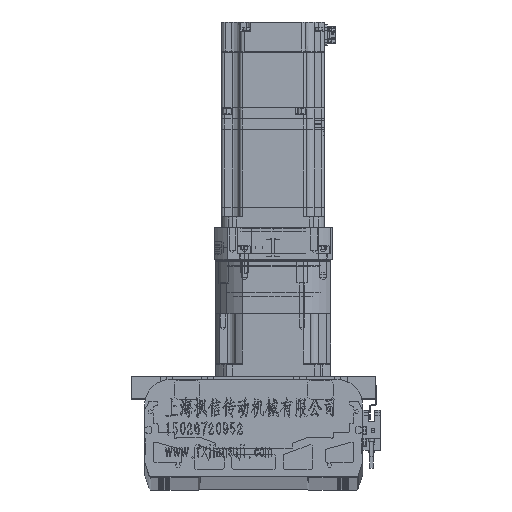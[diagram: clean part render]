
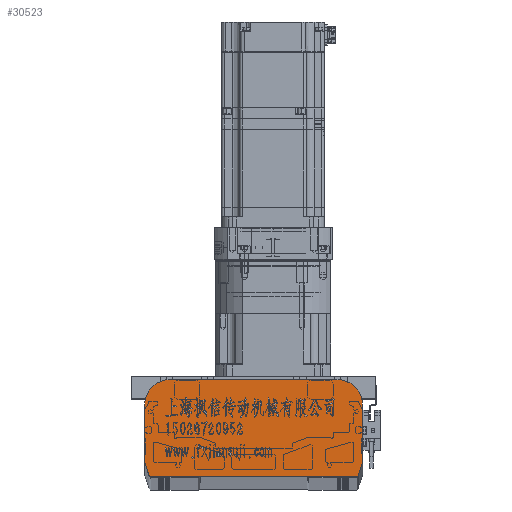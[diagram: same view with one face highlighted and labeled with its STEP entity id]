
A CAD part, top view. The second image highlights one B-rep face of the part: STEP entity #30523.
In plain terms, the highlighted planar face has unit normal (0, 0, 1).
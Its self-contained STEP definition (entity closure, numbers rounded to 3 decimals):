
#3497 = ORIENTED_EDGE ( 'NONE', *, *, #165576, .T. ) ;
#6141 = ORIENTED_EDGE ( 'NONE', *, *, #152074, .T. ) ;
#7154 = CIRCLE ( 'NONE', #154273, 20. ) ;
#8222 = PLANE ( 'NONE',  #160850 ) ;
#8284 = CARTESIAN_POINT ( 'NONE',  ( -367.991, 150.577, 5542. ) ) ;
#8831 = ORIENTED_EDGE ( 'NONE', *, *, #19456, .T. ) ;
#9686 = LINE ( 'NONE', #138621, #105711 ) ;
#12517 = VECTOR ( 'NONE', #159315, 1000. ) ;
#14074 = AXIS2_PLACEMENT_3D ( 'NONE', #50599, #133473, #62612 ) ;
#14246 = CARTESIAN_POINT ( 'NONE',  ( -201.382, 161.037, 5542. ) ) ;
#15662 = VECTOR ( 'NONE', #146092, 1000. ) ;
#18447 = CARTESIAN_POINT ( 'NONE',  ( -371.382, 160.711, 5542. ) ) ;
#18799 = VERTEX_POINT ( 'NONE', #94101 ) ;
#19456 = EDGE_CURVE ( 'NONE', #47031, #24642, #111985, .T. ) ;
#24642 = VERTEX_POINT ( 'NONE', #148546 ) ;
#24829 = CARTESIAN_POINT ( 'NONE',  ( -366.095, 149.211, 5542. ) ) ;
#25262 = VERTEX_POINT ( 'NONE', #156947 ) ;
#25487 = CARTESIAN_POINT ( 'NONE',  ( -221.382, 205.211, 5542. ) ) ;
#27892 = DIRECTION ( 'NONE',  ( 0., 0., 1. ) ) ;
#28045 = CARTESIAN_POINT ( 'NONE',  ( -371.382, 161.037, 5542. ) ) ;
#29162 = EDGE_CURVE ( 'NONE', #169499, #25262, #7154, .T. ) ;
#30523 = ADVANCED_FACE ( 'NONE', ( #78279 ), #8222, .T. ) ;
#31243 = ORIENTED_EDGE ( 'NONE', *, *, #117231, .T. ) ;
#31540 = CARTESIAN_POINT ( 'NONE',  ( -206.67, 151.211, 5542. ) ) ;
#36400 = LINE ( 'NONE', #90800, #159821 ) ;
#37727 = ORIENTED_EDGE ( 'NONE', *, *, #113164, .T. ) ;
#38800 = CARTESIAN_POINT ( 'NONE',  ( -351.382, 205.211, 5542. ) ) ;
#39768 = DIRECTION ( 'NONE',  ( 0., 0., 1. ) ) ;
#42770 = CIRCLE ( 'NONE', #78059, 2. ) ;
#42863 = CARTESIAN_POINT ( 'NONE',  ( -201.486, 160.402, 5542. ) ) ;
#43373 = CIRCLE ( 'NONE', #14074, 2. ) ;
#45167 = LINE ( 'NONE', #18447, #165336 ) ;
#46996 = CARTESIAN_POINT ( 'NONE',  ( -201.382, 225.211, 5542. ) ) ;
#47031 = VERTEX_POINT ( 'NONE', #14246 ) ;
#50599 = CARTESIAN_POINT ( 'NONE',  ( -366.095, 151.211, 5542. ) ) ;
#54931 = ORIENTED_EDGE ( 'NONE', *, *, #133466, .T. ) ;
#55888 = CARTESIAN_POINT ( 'NONE',  ( -221.382, 225.211, 5542. ) ) ;
#59973 = VERTEX_POINT ( 'NONE', #120933 ) ;
#61797 = AXIS2_PLACEMENT_3D ( 'NONE', #31540, #27892, #112626 ) ;
#62612 = DIRECTION ( 'NONE',  ( 1., 0., 0. ) ) ;
#63431 = ORIENTED_EDGE ( 'NONE', *, *, #73757, .T. ) ;
#65404 = EDGE_CURVE ( 'NONE', #91934, #18799, #171152, .T. ) ;
#73757 = EDGE_CURVE ( 'NONE', #166894, #77965, #43373, .T. ) ;
#76839 = AXIS2_PLACEMENT_3D ( 'NONE', #25487, #126730, #110211 ) ;
#77382 = CARTESIAN_POINT ( 'NONE',  ( 0., 0., 5542. ) ) ;
#77965 = VERTEX_POINT ( 'NONE', #24829 ) ;
#78059 = AXIS2_PLACEMENT_3D ( 'NONE', #132033, #90635, #131119 ) ;
#78279 = FACE_OUTER_BOUND ( 'NONE', #121338, .T. ) ;
#79183 = DIRECTION ( 'NONE',  ( 0., 0., 1. ) ) ;
#85669 = CARTESIAN_POINT ( 'NONE',  ( -351.382, 225.211, 5542. ) ) ;
#89967 = LINE ( 'NONE', #117554, #15662 ) ;
#90635 = DIRECTION ( 'NONE',  ( 0., 0., 1. ) ) ;
#90800 = CARTESIAN_POINT ( 'NONE',  ( -205.23, 149.211, 5542. ) ) ;
#91934 = VERTEX_POINT ( 'NONE', #28045 ) ;
#92090 = EDGE_CURVE ( 'NONE', #98426, #47031, #42770, .T. ) ;
#94101 = CARTESIAN_POINT ( 'NONE',  ( -371.279, 160.402, 5542. ) ) ;
#95017 = DIRECTION ( 'NONE',  ( 0., 0., 1. ) ) ;
#98426 = VERTEX_POINT ( 'NONE', #42863 ) ;
#99417 = ORIENTED_EDGE ( 'NONE', *, *, #92090, .T. ) ;
#103290 = CARTESIAN_POINT ( 'NONE',  ( -206.67, 149.211, 5542. ) ) ;
#103918 = AXIS2_PLACEMENT_3D ( 'NONE', #126265, #39768, #140109 ) ;
#105494 = DIRECTION ( 'NONE',  ( 0.317, 0.948, 0. ) ) ;
#105711 = VECTOR ( 'NONE', #137715, 1000. ) ;
#106580 = DIRECTION ( 'NONE',  ( 0.317, -0.948, 0. ) ) ;
#107147 = ORIENTED_EDGE ( 'NONE', *, *, #65404, .T. ) ;
#110211 = DIRECTION ( 'NONE',  ( 1., 0., 0. ) ) ;
#111985 = LINE ( 'NONE', #124003, #164513 ) ;
#112626 = DIRECTION ( 'NONE',  ( 1., 0., 0. ) ) ;
#113164 = EDGE_CURVE ( 'NONE', #25262, #91934, #9686, .T. ) ;
#115014 = ORIENTED_EDGE ( 'NONE', *, *, #166449, .T. ) ;
#117231 = EDGE_CURVE ( 'NONE', #18799, #166894, #45167, .T. ) ;
#117554 = CARTESIAN_POINT ( 'NONE',  ( -367.535, 149.211, 5542. ) ) ;
#120933 = CARTESIAN_POINT ( 'NONE',  ( -204.773, 150.577, 5542. ) ) ;
#121338 = EDGE_LOOP ( 'NONE', ( #3497, #176907, #37727, #107147, #31243, #63431, #54931, #6141, #115014, #99417, #8831, #124485 ) ) ;
#123096 = DIRECTION ( 'NONE',  ( 0., 1., 0. ) ) ;
#124003 = CARTESIAN_POINT ( 'NONE',  ( -201.382, 160.711, 5542. ) ) ;
#124485 = ORIENTED_EDGE ( 'NONE', *, *, #173492, .T. ) ;
#126265 = CARTESIAN_POINT ( 'NONE',  ( -369.382, 161.037, 5542. ) ) ;
#126730 = DIRECTION ( 'NONE',  ( 0., 0., 1. ) ) ;
#131119 = DIRECTION ( 'NONE',  ( 1., 0., 0. ) ) ;
#132033 = CARTESIAN_POINT ( 'NONE',  ( -203.382, 161.037, 5542. ) ) ;
#133466 = EDGE_CURVE ( 'NONE', #77965, #169263, #89967, .T. ) ;
#133473 = DIRECTION ( 'NONE',  ( 0., 0., 1. ) ) ;
#137715 = DIRECTION ( 'NONE',  ( 0., -1., 0. ) ) ;
#138621 = CARTESIAN_POINT ( 'NONE',  ( -371.382, 225.211, 5542. ) ) ;
#140109 = DIRECTION ( 'NONE',  ( 1., 0., 0. ) ) ;
#141195 = CIRCLE ( 'NONE', #61797, 2. ) ;
#146092 = DIRECTION ( 'NONE',  ( 1., 0., 0. ) ) ;
#148546 = CARTESIAN_POINT ( 'NONE',  ( -201.382, 205.211, 5542. ) ) ;
#151126 = DIRECTION ( 'NONE',  ( 1., 0., 0. ) ) ;
#152074 = EDGE_CURVE ( 'NONE', #169263, #59973, #141195, .T. ) ;
#154273 = AXIS2_PLACEMENT_3D ( 'NONE', #38800, #95017, #151126 ) ;
#156947 = CARTESIAN_POINT ( 'NONE',  ( -371.382, 205.211, 5542. ) ) ;
#159153 = CIRCLE ( 'NONE', #76839, 20. ) ;
#159315 = DIRECTION ( 'NONE',  ( -1., 0., 0. ) ) ;
#159821 = VECTOR ( 'NONE', #105494, 1000. ) ;
#160850 = AXIS2_PLACEMENT_3D ( 'NONE', #77382, #79183, #161979 ) ;
#161979 = DIRECTION ( 'NONE',  ( 1., 0., 0. ) ) ;
#164513 = VECTOR ( 'NONE', #123096, 1000. ) ;
#165336 = VECTOR ( 'NONE', #106580, 1000. ) ;
#165576 = EDGE_CURVE ( 'NONE', #169622, #169499, #173131, .T. ) ;
#166449 = EDGE_CURVE ( 'NONE', #59973, #98426, #36400, .T. ) ;
#166894 = VERTEX_POINT ( 'NONE', #8284 ) ;
#169263 = VERTEX_POINT ( 'NONE', #103290 ) ;
#169499 = VERTEX_POINT ( 'NONE', #85669 ) ;
#169622 = VERTEX_POINT ( 'NONE', #55888 ) ;
#171152 = CIRCLE ( 'NONE', #103918, 2. ) ;
#173131 = LINE ( 'NONE', #46996, #12517 ) ;
#173492 = EDGE_CURVE ( 'NONE', #24642, #169622, #159153, .T. ) ;
#176907 = ORIENTED_EDGE ( 'NONE', *, *, #29162, .T. ) ;
